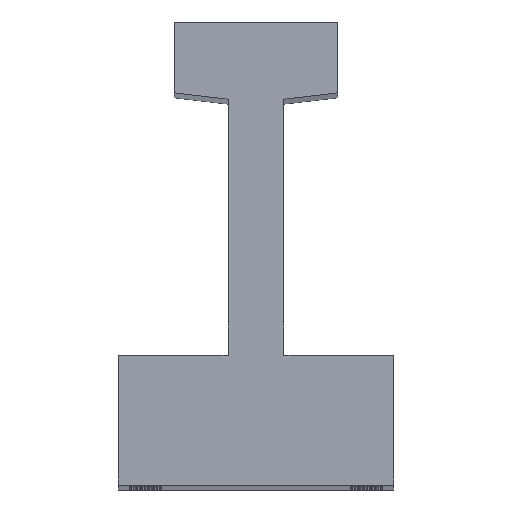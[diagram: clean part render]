
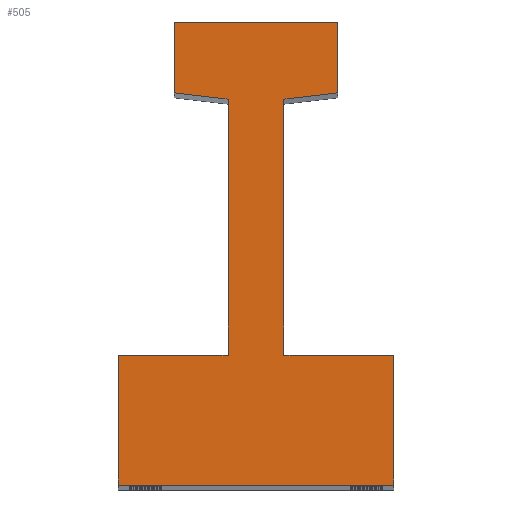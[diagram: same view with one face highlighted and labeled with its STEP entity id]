
A CAD part, top view. The second image highlights one B-rep face of the part: STEP entity #505.
In plain terms, the highlighted planar face has unit normal (0, 0, 1).
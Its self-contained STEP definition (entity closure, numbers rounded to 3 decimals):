
#15 = DIRECTION ( 'NONE',  ( 0., -1., 0. ) ) ;
#36 = CARTESIAN_POINT ( 'NONE',  ( 17.5, 0., 361. ) ) ;
#77 = LINE ( 'NONE', #2530, #2812 ) ;
#132 = CARTESIAN_POINT ( 'NONE',  ( 10.4, 58.8, 361. ) ) ;
#143 = CARTESIAN_POINT ( 'NONE',  ( -17.5, 0., 361. ) ) ;
#179 = CARTESIAN_POINT ( 'NONE',  ( 3.55, 16.5, 361. ) ) ;
#192 = EDGE_LOOP ( 'NONE', ( #929, #3540, #2731, #1868, #3846, #2487, #1809, #2383, #2544, #394, #800, #3995 ) ) ;
#209 = CARTESIAN_POINT ( 'NONE',  ( 10.4, 49.8, 361. ) ) ;
#242 = VERTEX_POINT ( 'NONE', #1419 ) ;
#296 = VERTEX_POINT ( 'NONE', #2970 ) ;
#381 = DIRECTION ( 'NONE',  ( -1., 0., 0. ) ) ;
#394 = ORIENTED_EDGE ( 'NONE', *, *, #3487, .T. ) ;
#404 = EDGE_CURVE ( 'NONE', #2082, #4017, #3243, .T. ) ;
#505 = ADVANCED_FACE ( 'NONE', ( #3133 ), #4414, .F. ) ;
#625 = CARTESIAN_POINT ( 'NONE',  ( 10.4, 58.8, 361. ) ) ;
#629 = EDGE_CURVE ( 'NONE', #242, #4423, #4117, .T. ) ;
#652 = VECTOR ( 'NONE', #3719, 1000. ) ;
#703 = CARTESIAN_POINT ( 'NONE',  ( -3.55, 16.5, 361. ) ) ;
#800 = ORIENTED_EDGE ( 'NONE', *, *, #3197, .T. ) ;
#805 = CARTESIAN_POINT ( 'NONE',  ( -10.4, 58.8, 361. ) ) ;
#852 = VECTOR ( 'NONE', #1709, 1000. ) ;
#917 = EDGE_CURVE ( 'NONE', #4423, #2082, #4008, .T. ) ;
#929 = ORIENTED_EDGE ( 'NONE', *, *, #3315, .T. ) ;
#1063 = VECTOR ( 'NONE', #4211, 1000. ) ;
#1145 = CARTESIAN_POINT ( 'NONE',  ( 17.5, 0., 361. ) ) ;
#1201 = VECTOR ( 'NONE', #3162, 1000. ) ;
#1208 = LINE ( 'NONE', #1870, #2775 ) ;
#1282 = VERTEX_POINT ( 'NONE', #3224 ) ;
#1288 = CARTESIAN_POINT ( 'NONE',  ( 0., 0., 361. ) ) ;
#1350 = CARTESIAN_POINT ( 'NONE',  ( 3.55, 49., 361. ) ) ;
#1419 = CARTESIAN_POINT ( 'NONE',  ( 3.55, 49., 361. ) ) ;
#1525 = LINE ( 'NONE', #4589, #1063 ) ;
#1565 = CARTESIAN_POINT ( 'NONE',  ( 10.4, 49.8, 361. ) ) ;
#1644 = DIRECTION ( 'NONE',  ( 0., 0., -1. ) ) ;
#1647 = LINE ( 'NONE', #1350, #3363 ) ;
#1701 = VECTOR ( 'NONE', #4462, 1000. ) ;
#1709 = DIRECTION ( 'NONE',  ( -1., 0., 0. ) ) ;
#1734 = VERTEX_POINT ( 'NONE', #703 ) ;
#1807 = EDGE_CURVE ( 'NONE', #4017, #3338, #1208, .T. ) ;
#1809 = ORIENTED_EDGE ( 'NONE', *, *, #404, .T. ) ;
#1825 = DIRECTION ( 'NONE',  ( 0., 1., 0. ) ) ;
#1868 = ORIENTED_EDGE ( 'NONE', *, *, #3542, .T. ) ;
#1870 = CARTESIAN_POINT ( 'NONE',  ( -10.4, 49.8, 361. ) ) ;
#1889 = VERTEX_POINT ( 'NONE', #36 ) ;
#2015 = DIRECTION ( 'NONE',  ( -1., 0., 0. ) ) ;
#2082 = VERTEX_POINT ( 'NONE', #625 ) ;
#2177 = VERTEX_POINT ( 'NONE', #3652 ) ;
#2262 = CARTESIAN_POINT ( 'NONE',  ( -3.55, 49., 361. ) ) ;
#2383 = ORIENTED_EDGE ( 'NONE', *, *, #1807, .T. ) ;
#2487 = ORIENTED_EDGE ( 'NONE', *, *, #917, .T. ) ;
#2530 = CARTESIAN_POINT ( 'NONE',  ( -17.5, 16.5, 361. ) ) ;
#2544 = ORIENTED_EDGE ( 'NONE', *, *, #3383, .T. ) ;
#2691 = VERTEX_POINT ( 'NONE', #3413 ) ;
#2731 = ORIENTED_EDGE ( 'NONE', *, *, #4235, .T. ) ;
#2738 = VECTOR ( 'NONE', #381, 1000. ) ;
#2740 = DIRECTION ( 'NONE',  ( 0., 1., 0. ) ) ;
#2749 = DIRECTION ( 'NONE',  ( 0., -1., 0. ) ) ;
#2775 = VECTOR ( 'NONE', #15, 1000. ) ;
#2776 = CARTESIAN_POINT ( 'NONE',  ( -10.4, 58.8, 361. ) ) ;
#2812 = VECTOR ( 'NONE', #3611, 1000. ) ;
#2850 = CARTESIAN_POINT ( 'NONE',  ( 3.55, 16.5, 361. ) ) ;
#2891 = CARTESIAN_POINT ( 'NONE',  ( 17.5, 16.5, 361. ) ) ;
#2926 = AXIS2_PLACEMENT_3D ( 'NONE', #1288, #1644, #2015 ) ;
#2944 = LINE ( 'NONE', #2850, #852 ) ;
#2970 = CARTESIAN_POINT ( 'NONE',  ( -3.55, 49., 361. ) ) ;
#2999 = LINE ( 'NONE', #143, #4699 ) ;
#3133 = FACE_OUTER_BOUND ( 'NONE', #192, .T. ) ;
#3162 = DIRECTION ( 'NONE',  ( 0.993, 0.116, 0. ) ) ;
#3197 = EDGE_CURVE ( 'NONE', #1734, #1282, #77, .T. ) ;
#3224 = CARTESIAN_POINT ( 'NONE',  ( -17.5, 16.5, 361. ) ) ;
#3243 = LINE ( 'NONE', #805, #2738 ) ;
#3315 = EDGE_CURVE ( 'NONE', #2691, #1889, #3367, .T. ) ;
#3338 = VERTEX_POINT ( 'NONE', #3355 ) ;
#3355 = CARTESIAN_POINT ( 'NONE',  ( -10.4, 49.8, 361. ) ) ;
#3363 = VECTOR ( 'NONE', #4246, 1000. ) ;
#3367 = LINE ( 'NONE', #1145, #652 ) ;
#3383 = EDGE_CURVE ( 'NONE', #3338, #296, #4001, .T. ) ;
#3413 = CARTESIAN_POINT ( 'NONE',  ( -17.5, 0., 361. ) ) ;
#3487 = EDGE_CURVE ( 'NONE', #296, #1734, #1525, .T. ) ;
#3540 = ORIENTED_EDGE ( 'NONE', *, *, #3690, .T. ) ;
#3542 = EDGE_CURVE ( 'NONE', #4697, #242, #1647, .T. ) ;
#3600 = LINE ( 'NONE', #2891, #4322 ) ;
#3611 = DIRECTION ( 'NONE',  ( -1., 0., 0. ) ) ;
#3652 = CARTESIAN_POINT ( 'NONE',  ( 17.5, 16.5, 361. ) ) ;
#3690 = EDGE_CURVE ( 'NONE', #1889, #2177, #3600, .T. ) ;
#3719 = DIRECTION ( 'NONE',  ( 1., 0., 0. ) ) ;
#3846 = ORIENTED_EDGE ( 'NONE', *, *, #629, .T. ) ;
#3940 = EDGE_CURVE ( 'NONE', #1282, #2691, #2999, .T. ) ;
#3995 = ORIENTED_EDGE ( 'NONE', *, *, #3940, .T. ) ;
#4001 = LINE ( 'NONE', #2262, #1701 ) ;
#4008 = LINE ( 'NONE', #132, #4509 ) ;
#4017 = VERTEX_POINT ( 'NONE', #2776 ) ;
#4117 = LINE ( 'NONE', #209, #1201 ) ;
#4211 = DIRECTION ( 'NONE',  ( 0., -1., 0. ) ) ;
#4235 = EDGE_CURVE ( 'NONE', #2177, #4697, #2944, .T. ) ;
#4246 = DIRECTION ( 'NONE',  ( 0., 1., 0. ) ) ;
#4322 = VECTOR ( 'NONE', #1825, 1000. ) ;
#4414 = PLANE ( 'NONE',  #2926 ) ;
#4423 = VERTEX_POINT ( 'NONE', #1565 ) ;
#4462 = DIRECTION ( 'NONE',  ( 0.993, -0.116, 0. ) ) ;
#4509 = VECTOR ( 'NONE', #2740, 1000. ) ;
#4589 = CARTESIAN_POINT ( 'NONE',  ( -3.55, 16.5, 361. ) ) ;
#4697 = VERTEX_POINT ( 'NONE', #179 ) ;
#4699 = VECTOR ( 'NONE', #2749, 1000. ) ;
